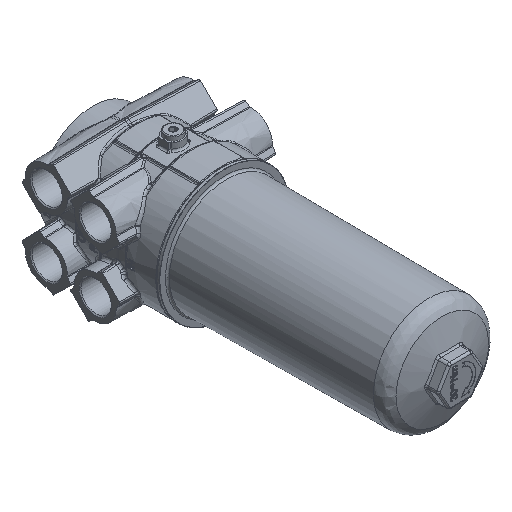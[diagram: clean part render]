
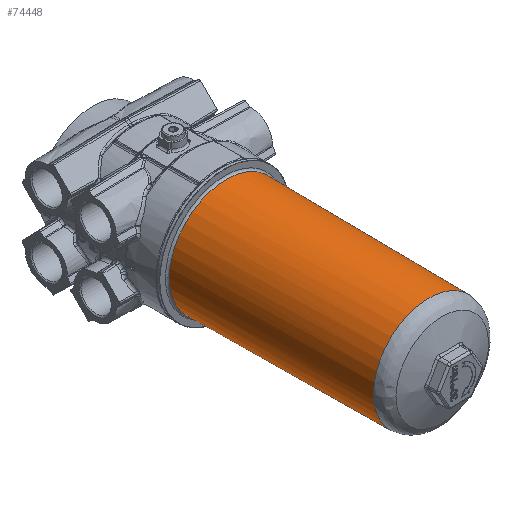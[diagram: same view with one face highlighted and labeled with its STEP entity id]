
A CAD part, isometric view. The second image highlights one B-rep face of the part: STEP entity #74448.
In plain terms, the highlighted free-form (B-spline) face has degree [2, 1] with [7, 2] control points.
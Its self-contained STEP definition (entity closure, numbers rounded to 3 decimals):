
#74361=CARTESIAN_POINT('V2002',(-56.675,
   -212.13,0.));
#74362=VERTEX_POINT('V2002',#74361);
#74378=CARTESIAN_POINT('E3507',(-56.675,
   -212.13,0.));
#74379=CARTESIAN_POINT('E3507',(-56.675,
   -212.13,98.164));
#74380=CARTESIAN_POINT('E3507',(28.337,
   -212.13,49.082));
#74381=CARTESIAN_POINT('E3507',(113.35,
   -212.13,0.));
#74382=CARTESIAN_POINT('E3507',(28.337,
   -212.13,-49.082));
#74383=CARTESIAN_POINT('E3507',(-56.675,
   -212.13,-98.164));
#74384=CARTESIAN_POINT('E3507',(-56.675,
   -212.13,0.));
#74392=(BOUNDED_CURVE()B_SPLINE_CURVE(2,(#74378,#74379,#74380,
   #74381,#74382,#74383,#74384),.CIRCULAR_ARC.,.T.,.U.)
   B_SPLINE_CURVE_WITH_KNOTS((3,2,2,3),(0.0,0.963,
   1.926,2.889),.UNSPECIFIED.)CURVE()
   GEOMETRIC_REPRESENTATION_ITEM()RATIONAL_B_SPLINE_CURVE((1.0,
   0.5,1.0,0.5,1.0,0.5,1.0)
   )REPRESENTATION_ITEM('E3507'));
#74393=EDGE_CURVE('E3507',#74362,#74362,#74392,.T.);
#74398=CARTESIAN_POINT('F1438',(-56.675,
   -212.13,0.));
#74399=CARTESIAN_POINT('F1438',(-56.675,
   -212.13,98.164));
#74400=CARTESIAN_POINT('F1438',(28.337,
   -212.13,49.082));
#74401=CARTESIAN_POINT('F1438',(113.35,
   -212.13,0.));
#74402=CARTESIAN_POINT('F1438',(28.337,
   -212.13,-49.082));
#74403=CARTESIAN_POINT('F1438',(-56.675,
   -212.13,-98.164));
#74404=CARTESIAN_POINT('F1438',(-56.675,
   -212.13,0.));
#74405=CARTESIAN_POINT('F1438',(-58.483,
   -4.983,0.));
#74406=CARTESIAN_POINT('F1438',(-58.483,
   -4.983,101.295));
#74407=CARTESIAN_POINT('F1438',(29.241,
   -4.983,50.648));
#74408=CARTESIAN_POINT('F1438',(116.965,
   -4.983,0.));
#74409=CARTESIAN_POINT('F1438',(29.241,
   -4.983,-50.648));
#74410=CARTESIAN_POINT('F1438',(-58.483,
   -4.983,-101.295));
#74411=CARTESIAN_POINT('F1438',(-58.483,
   -4.983,0.));
#74419=(BOUNDED_SURFACE()B_SPLINE_SURFACE(2,1,((#74398,#74405),(
   #74399,#74406),(#74400,#74407),(#74401,#74408),(#74402,
   #74409),(#74403,#74410),(#74404,#74411)),.CONICAL_SURF.,.T.,
   .F.,.U.)B_SPLINE_SURFACE_WITH_KNOTS((3,2,2,3),(2,2),(0.0,
   0.963,1.926,2.889),(0.0,1.0),
   .UNSPECIFIED.)GEOMETRIC_REPRESENTATION_ITEM()
   RATIONAL_B_SPLINE_SURFACE(((1.0,1.0),(0.5,
   0.5),(1.0,1.0),(0.5,
   0.5),(1.0,1.0),(0.5,
   0.5),(1.0,1.0)))REPRESENTATION_ITEM('F1438')
   SURFACE());
#74420=CARTESIAN_POINT('V2004',(-58.483,
   -4.983,0.));
#74421=VERTEX_POINT('V2004',#74420);
#74422=CARTESIAN_POINT('E3508',(-58.483,
   -4.983,0.0));
#74423=CARTESIAN_POINT('E3508',(-56.675,
   -212.13,0.0));
#74424=QUASI_UNIFORM_CURVE('E3508',1,(#74422,#74423),.POLYLINE_FORM.,
   .F.,.U.);
#74425=EDGE_CURVE('E3508',#74421,#74362,#74424,.T.);
#74426=ORIENTED_EDGE('E3508',*,*,#74425,.T.);
#74427=ORIENTED_EDGE('F1437',*,*,#74393,.T.);
#74428=ORIENTED_EDGE('E3508',*,*,#74425,.F.);
#74429=CARTESIAN_POINT('E3509',(-58.483,
   -4.983,0.));
#74430=CARTESIAN_POINT('E3509',(-58.483,
   -4.983,-101.295));
#74431=CARTESIAN_POINT('E3509',(29.241,
   -4.983,-50.648));
#74432=CARTESIAN_POINT('E3509',(116.965,
   -4.983,0.));
#74433=CARTESIAN_POINT('E3509',(29.241,
   -4.983,50.648));
#74434=CARTESIAN_POINT('E3509',(-58.483,
   -4.983,101.295));
#74435=CARTESIAN_POINT('E3509',(-58.483,
   -4.983,0.));
#74443=(BOUNDED_CURVE()B_SPLINE_CURVE(2,(#74429,#74430,#74431,
   #74432,#74433,#74434,#74435),.CIRCULAR_ARC.,.T.,.U.)
   B_SPLINE_CURVE_WITH_KNOTS((3,2,2,3),(0.0,51.609,
   103.217,154.826),.UNSPECIFIED.)CURVE()
   GEOMETRIC_REPRESENTATION_ITEM()RATIONAL_B_SPLINE_CURVE((1.0,
   0.5,1.0,0.5,1.0,0.5,1.0)
   )REPRESENTATION_ITEM('E3509'));
#74444=EDGE_CURVE('E3509',#74421,#74421,#74443,.T.);
#74445=ORIENTED_EDGE('E3509',*,*,#74444,.T.);
#74446=EDGE_LOOP('F1438',(#74426,#74427,#74428,#74445));
#74447=FACE_OUTER_BOUND('F1438',#74446,.T.);
#74448=ADVANCED_FACE('F1438',(#74447),#74419,.T.);
